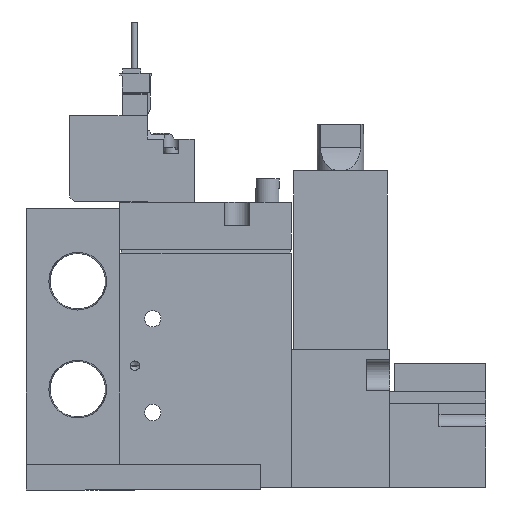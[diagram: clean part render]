
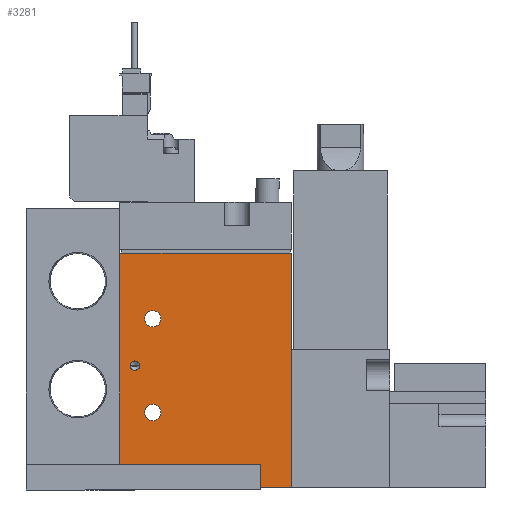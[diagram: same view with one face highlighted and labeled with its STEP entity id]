
A CAD part, left-side view. The second image highlights one B-rep face of the part: STEP entity #3281.
In plain terms, the highlighted planar face has unit normal (-1, 0, 0) as drawn and (1, 0, 0) by its records, which use the part's own axes.
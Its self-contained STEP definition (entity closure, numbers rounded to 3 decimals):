
#3281=ADVANCED_FACE('',(#5010,#5011,#5012,#5013),#5014,.F.);
#5010=FACE_BOUND('',#8222,.T.);
#5011=FACE_BOUND('',#8223,.T.);
#5012=FACE_BOUND('',#8224,.T.);
#5013=FACE_OUTER_BOUND('',#8225,.T.);
#5014=PLANE('',#8226);
#8222=EDGE_LOOP('',(#12565));
#8223=EDGE_LOOP('',(#12566));
#8224=EDGE_LOOP('',(#12567));
#8225=EDGE_LOOP('',(#12568,#12569,#12570,#12571));
#8226=AXIS2_PLACEMENT_3D('',#12572,#12573,#12574);
#12565=ORIENTED_EDGE('',*,*,#22454,.F.);
#12566=ORIENTED_EDGE('',*,*,#22455,.T.);
#12567=ORIENTED_EDGE('',*,*,#22456,.T.);
#12568=ORIENTED_EDGE('',*,*,#22448,.T.);
#12569=ORIENTED_EDGE('',*,*,#22445,.F.);
#12570=ORIENTED_EDGE('',*,*,#22449,.F.);
#12571=ORIENTED_EDGE('',*,*,#22441,.T.);
#12572=CARTESIAN_POINT('',(8.5,-19.444,50.0));
#12573=DIRECTION('',(-1.0,0.0,0.0));
#12574=DIRECTION('',(0.0,0.0,1.0));
#22441=EDGE_CURVE('',#26217,#26215,#26218,.T.);
#22445=EDGE_CURVE('',#26222,#26220,#26224,.T.);
#22448=EDGE_CURVE('',#26215,#26220,#26229,.T.);
#22449=EDGE_CURVE('',#26217,#26222,#26230,.T.);
#22454=EDGE_CURVE('',#26237,#26237,#26238,.T.);
#22455=EDGE_CURVE('',#26239,#26239,#26240,.T.);
#22456=EDGE_CURVE('',#26241,#26241,#26242,.T.);
#26215=VERTEX_POINT('',#32588);
#26217=VERTEX_POINT('',#32591);
#26218=LINE('',#32592,#32593);
#26220=VERTEX_POINT('',#32596);
#26222=VERTEX_POINT('',#32599);
#26224=LINE('',#32602,#32603);
#26229=LINE('',#32608,#32609);
#26230=LINE('',#32610,#32611);
#26237=VERTEX_POINT('',#32618);
#26238=CIRCLE('',#32619,1.0);
#26239=VERTEX_POINT('',#32620);
#26240=CIRCLE('',#32621,1.75);
#26241=VERTEX_POINT('',#32622);
#26242=CIRCLE('',#32623,1.75);
#32588=CARTESIAN_POINT('',(8.5,-19.444,0.0));
#32591=CARTESIAN_POINT('',(8.5,-19.444,50.0));
#32592=CARTESIAN_POINT('',(8.5,-19.444,50.0));
#32593=VECTOR('',#40728,1.0);
#32596=CARTESIAN_POINT('',(8.5,17.056,0.0));
#32599=CARTESIAN_POINT('',(8.5,17.056,50.0));
#32602=CARTESIAN_POINT('',(8.5,17.056,50.0));
#32603=VECTOR('',#40732,1.0);
#32608=CARTESIAN_POINT('',(8.5,-19.444,0.0));
#32609=VECTOR('',#40739,1.0);
#32610=CARTESIAN_POINT('',(8.5,-19.444,50.0));
#32611=VECTOR('',#40740,1.0);
#32618=CARTESIAN_POINT('',(8.5,-17.244,26.0));
#32619=AXIS2_PLACEMENT_3D('',#40750,#40751,#40752);
#32620=CARTESIAN_POINT('',(8.5,-10.694,36.0));
#32621=AXIS2_PLACEMENT_3D('',#40753,#40754,#40755);
#32622=CARTESIAN_POINT('',(8.5,-10.694,16.0));
#32623=AXIS2_PLACEMENT_3D('',#40756,#40757,#40758);
#40728=DIRECTION('',(0.0,0.0,-1.0));
#40732=DIRECTION('',(0.0,0.0,-1.0));
#40739=DIRECTION('',(0.0,1.0,0.0));
#40740=DIRECTION('',(0.0,1.0,0.0));
#40750=CARTESIAN_POINT('',(8.5,-16.244,26.0));
#40751=DIRECTION('',(1.0,0.,0.0));
#40752=DIRECTION('',(0.,-1.0,0.0));
#40753=CARTESIAN_POINT('',(8.5,-12.444,36.0));
#40754=DIRECTION('',(-1.0,0.0,0.0));
#40755=DIRECTION('',(0.0,1.0,0.0));
#40756=CARTESIAN_POINT('',(8.5,-12.444,16.0));
#40757=DIRECTION('',(-1.0,0.0,0.0));
#40758=DIRECTION('',(0.0,1.0,0.0));
